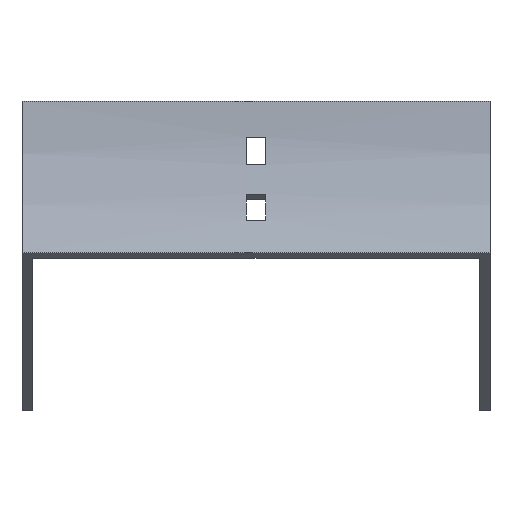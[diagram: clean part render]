
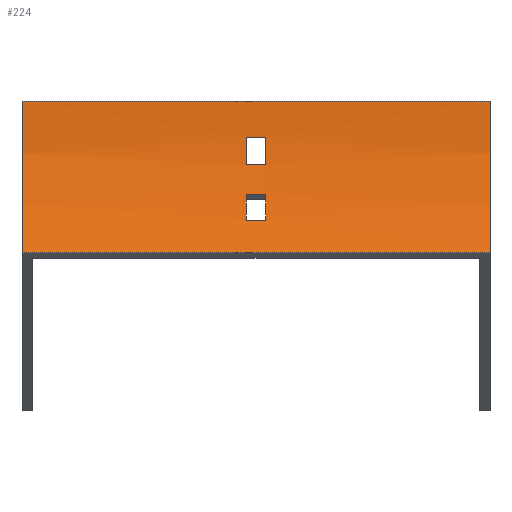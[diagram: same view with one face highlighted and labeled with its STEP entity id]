
A CAD part, front view. The second image highlights one B-rep face of the part: STEP entity #224.
In plain terms, the highlighted cylindrical face has radius 100 mm (diameter 200 mm), a partial arc.
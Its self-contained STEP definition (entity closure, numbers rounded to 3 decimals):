
#20 = ORIENTED_EDGE ( 'NONE', *, *, #792, .F. ) ;
#45 = ORIENTED_EDGE ( 'NONE', *, *, #654, .F. ) ;
#49 = LINE ( 'NONE', #1619, #1183 ) ;
#57 = CIRCLE ( 'NONE', #1157, 100. ) ;
#61 = CARTESIAN_POINT ( 'NONE',  ( 77., 0., 0. ) ) ;
#66 = EDGE_LOOP ( 'NONE', ( #861, #78, #1076, #165 ) ) ;
#78 = ORIENTED_EDGE ( 'NONE', *, *, #330, .T. ) ;
#93 = FACE_OUTER_BOUND ( 'NONE', #675, .T. ) ;
#108 = ORIENTED_EDGE ( 'NONE', *, *, #962, .F. ) ;
#113 = VERTEX_POINT ( 'NONE', #975 ) ;
#118 = CIRCLE ( 'NONE', #366, 100. ) ;
#165 = ORIENTED_EDGE ( 'NONE', *, *, #1006, .T. ) ;
#169 = CIRCLE ( 'NONE', #1471, 100. ) ;
#192 = DIRECTION ( 'NONE',  ( -1., 0., 0. ) ) ;
#198 = DIRECTION ( 'NONE',  ( 1., 0., 0. ) ) ;
#206 = DIRECTION ( 'NONE',  ( -1., 0., 0. ) ) ;
#214 = CARTESIAN_POINT ( 'NONE',  ( -3.25, -2.23, -21. ) ) ;
#220 = ORIENTED_EDGE ( 'NONE', *, *, #783, .F. ) ;
#224 = ADVANCED_FACE ( 'NONE', ( #93, #577, #714 ), #1239, .F. ) ;
#234 = VERTEX_POINT ( 'NONE', #899 ) ;
#264 = CARTESIAN_POINT ( 'NONE',  ( -3.25, -100., 0. ) ) ;
#286 = LINE ( 'NONE', #1061, #1043 ) ;
#310 = DIRECTION ( 'NONE',  ( -1., 0., 0. ) ) ;
#318 = CARTESIAN_POINT ( 'NONE',  ( -77., 0., 0. ) ) ;
#330 = EDGE_CURVE ( 'NONE', #1026, #113, #544, .T. ) ;
#332 = DIRECTION ( 'NONE',  ( -1., 0., 0. ) ) ;
#346 = VERTEX_POINT ( 'NONE', #1434 ) ;
#366 = AXIS2_PLACEMENT_3D ( 'NONE', #993, #192, #713 ) ;
#378 = VERTEX_POINT ( 'NONE', #1081 ) ;
#388 = DIRECTION ( 'NONE',  ( 0., 0., 1. ) ) ;
#405 = DIRECTION ( 'NONE',  ( 1., 0., 0. ) ) ;
#417 = VERTEX_POINT ( 'NONE', #537 ) ;
#461 = CARTESIAN_POINT ( 'NONE',  ( 77., -100., 0. ) ) ;
#488 = DIRECTION ( 'NONE',  ( -1., 0., 0. ) ) ;
#518 = LINE ( 'NONE', #1692, #1017 ) ;
#525 = VECTOR ( 'NONE', #1092, 1000. ) ;
#537 = CARTESIAN_POINT ( 'NONE',  ( 3.25, -4.829, -30.699 ) ) ;
#544 = CIRCLE ( 'NONE', #1468, 100. ) ;
#546 = CIRCLE ( 'NONE', #1206, 100. ) ;
#564 = VERTEX_POINT ( 'NONE', #1368 ) ;
#577 = FACE_BOUND ( 'NONE', #66, .T. ) ;
#603 = VECTOR ( 'NONE', #310, 1000. ) ;
#608 = EDGE_LOOP ( 'NONE', ( #1595, #220, #20, #108 ) ) ;
#631 = AXIS2_PLACEMENT_3D ( 'NONE', #461, #332, #851 ) ;
#641 = CARTESIAN_POINT ( 'NONE',  ( 3.25, -8.023, -39.246 ) ) ;
#653 = CARTESIAN_POINT ( 'NONE',  ( 77., -100., 0. ) ) ;
#654 = EDGE_CURVE ( 'NONE', #1222, #234, #1585, .T. ) ;
#657 = ORIENTED_EDGE ( 'NONE', *, *, #1487, .T. ) ;
#675 = EDGE_LOOP ( 'NONE', ( #957, #999, #45, #657 ) ) ;
#681 = DIRECTION ( 'NONE',  ( 0., 0., 1. ) ) ;
#713 = DIRECTION ( 'NONE',  ( 0., 0., 1. ) ) ;
#714 = FACE_BOUND ( 'NONE', #608, .T. ) ;
#783 = EDGE_CURVE ( 'NONE', #417, #1678, #286, .T. ) ;
#792 = EDGE_CURVE ( 'NONE', #1363, #417, #57, .T. ) ;
#806 = CARTESIAN_POINT ( 'NONE',  ( 3.25, -2.23, -21. ) ) ;
#843 = CARTESIAN_POINT ( 'NONE',  ( 77., -8.023, -39.246 ) ) ;
#851 = DIRECTION ( 'NONE',  ( 0., 0., 1. ) ) ;
#853 = VERTEX_POINT ( 'NONE', #806 ) ;
#861 = ORIENTED_EDGE ( 'NONE', *, *, #995, .T. ) ;
#879 = AXIS2_PLACEMENT_3D ( 'NONE', #653, #488, #388 ) ;
#899 = CARTESIAN_POINT ( 'NONE',  ( 77., -13.397, -50. ) ) ;
#903 = VERTEX_POINT ( 'NONE', #318 ) ;
#904 = VECTOR ( 'NONE', #198, 1000. ) ;
#915 = DIRECTION ( 'NONE',  ( 1., 0., 0. ) ) ;
#932 = EDGE_CURVE ( 'NONE', #1678, #346, #546, .T. ) ;
#957 = ORIENTED_EDGE ( 'NONE', *, *, #1603, .T. ) ;
#962 = EDGE_CURVE ( 'NONE', #346, #1363, #970, .T. ) ;
#963 = DIRECTION ( 'NONE',  ( -1., 0., 0. ) ) ;
#970 = LINE ( 'NONE', #843, #904 ) ;
#975 = CARTESIAN_POINT ( 'NONE',  ( -3.25, -0.723, -12. ) ) ;
#989 = CARTESIAN_POINT ( 'NONE',  ( 3.25, -100., 0. ) ) ;
#993 = CARTESIAN_POINT ( 'NONE',  ( -77., -100., 0. ) ) ;
#995 = EDGE_CURVE ( 'NONE', #853, #1026, #1503, .T. ) ;
#999 = ORIENTED_EDGE ( 'NONE', *, *, #1020, .F. ) ;
#1006 = EDGE_CURVE ( 'NONE', #378, #853, #169, .T. ) ;
#1017 = VECTOR ( 'NONE', #1551, 1000. ) ;
#1020 = EDGE_CURVE ( 'NONE', #234, #564, #49, .T. ) ;
#1026 = VERTEX_POINT ( 'NONE', #214 ) ;
#1043 = VECTOR ( 'NONE', #1565, 1000. ) ;
#1061 = CARTESIAN_POINT ( 'NONE',  ( 77., -4.829, -30.699 ) ) ;
#1064 = CARTESIAN_POINT ( 'NONE',  ( 77., 0., 0. ) ) ;
#1076 = ORIENTED_EDGE ( 'NONE', *, *, #1310, .T. ) ;
#1081 = CARTESIAN_POINT ( 'NONE',  ( 3.25, -0.723, -12. ) ) ;
#1092 = DIRECTION ( 'NONE',  ( -1., 0., 0. ) ) ;
#1108 = DIRECTION ( 'NONE',  ( -1., 0., 0. ) ) ;
#1123 = CARTESIAN_POINT ( 'NONE',  ( 77., -2.23, -21. ) ) ;
#1157 = AXIS2_PLACEMENT_3D ( 'NONE', #1185, #405, #681 ) ;
#1171 = DIRECTION ( 'NONE',  ( 0., 0., 1. ) ) ;
#1183 = VECTOR ( 'NONE', #963, 1000. ) ;
#1185 = CARTESIAN_POINT ( 'NONE',  ( 3.25, -100., 0. ) ) ;
#1194 = LINE ( 'NONE', #1064, #525 ) ;
#1206 = AXIS2_PLACEMENT_3D ( 'NONE', #1365, #1108, #1250 ) ;
#1222 = VERTEX_POINT ( 'NONE', #61 ) ;
#1239 = CYLINDRICAL_SURFACE ( 'NONE', #631, 100. ) ;
#1250 = DIRECTION ( 'NONE',  ( 0., 0., -1. ) ) ;
#1310 = EDGE_CURVE ( 'NONE', #113, #378, #518, .T. ) ;
#1363 = VERTEX_POINT ( 'NONE', #641 ) ;
#1365 = CARTESIAN_POINT ( 'NONE',  ( -3.25, -100., 0. ) ) ;
#1368 = CARTESIAN_POINT ( 'NONE',  ( -77., -13.397, -50. ) ) ;
#1434 = CARTESIAN_POINT ( 'NONE',  ( -3.25, -8.023, -39.246 ) ) ;
#1468 = AXIS2_PLACEMENT_3D ( 'NONE', #264, #915, #1171 ) ;
#1471 = AXIS2_PLACEMENT_3D ( 'NONE', #989, #206, #1634 ) ;
#1487 = EDGE_CURVE ( 'NONE', #1222, #903, #1194, .T. ) ;
#1503 = LINE ( 'NONE', #1123, #603 ) ;
#1551 = DIRECTION ( 'NONE',  ( 1., 0., 0. ) ) ;
#1565 = DIRECTION ( 'NONE',  ( -1., 0., 0. ) ) ;
#1585 = CIRCLE ( 'NONE', #879, 100. ) ;
#1595 = ORIENTED_EDGE ( 'NONE', *, *, #932, .F. ) ;
#1603 = EDGE_CURVE ( 'NONE', #903, #564, #118, .T. ) ;
#1619 = CARTESIAN_POINT ( 'NONE',  ( 77., -13.397, -50. ) ) ;
#1634 = DIRECTION ( 'NONE',  ( 0., 0., -1. ) ) ;
#1655 = CARTESIAN_POINT ( 'NONE',  ( -3.25, -4.829, -30.699 ) ) ;
#1678 = VERTEX_POINT ( 'NONE', #1655 ) ;
#1692 = CARTESIAN_POINT ( 'NONE',  ( 77., -0.723, -12. ) ) ;
